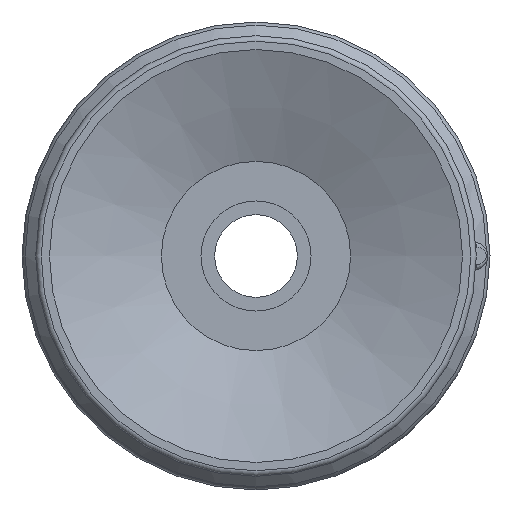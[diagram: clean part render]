
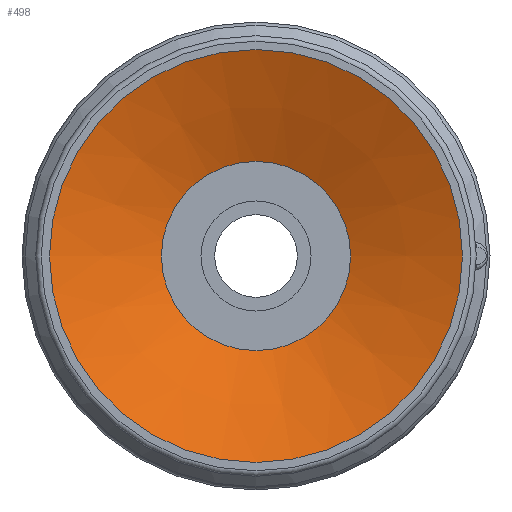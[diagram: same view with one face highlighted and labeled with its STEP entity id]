
A CAD part, front view. The second image highlights one B-rep face of the part: STEP entity #498.
In plain terms, the highlighted conical face has half-angle 67.5 degrees and reference radius 3.437 mm.
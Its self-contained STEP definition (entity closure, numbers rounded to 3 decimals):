
#498=ADVANCED_FACE('',(#714,#715),#716,.F.);
#714=FACE_BOUND('',#1982,.T.);
#715=FACE_OUTER_BOUND('',#1983,.T.);
#716=CONICAL_SURFACE('',#1984,3.437,1.178);
#1982=EDGE_LOOP('',(#2547));
#1983=EDGE_LOOP('',(#2548));
#1984=AXIS2_PLACEMENT_3D('',#2549,#2550,#2551);
#2547=ORIENTED_EDGE('',*,*,#2807,.F.);
#2548=ORIENTED_EDGE('',*,*,#2808,.T.);
#2549=CARTESIAN_POINT('',(0.0,0.0,1.683));
#2550=DIRECTION('',(0.0,0.,-1.0));
#2551=DIRECTION('',(0.0,1.0,0.));
#2807=EDGE_CURVE('',#3076,#3076,#3077,.T.);
#2808=EDGE_CURVE('',#3078,#3078,#3079,.T.);
#3076=VERTEX_POINT('',#3955);
#3077=CIRCLE('',#3956,3.437);
#3078=VERTEX_POINT('',#3957);
#3079=CIRCLE('',#3958,7.5);
#3955=CARTESIAN_POINT('',(-3.437,0.0,1.683));
#3956=AXIS2_PLACEMENT_3D('',#4191,#4192,#4193);
#3957=CARTESIAN_POINT('',(-7.5,0.0,0.));
#3958=AXIS2_PLACEMENT_3D('',#4194,#4195,#4196);
#4191=CARTESIAN_POINT('',(0.0,0.0,1.683));
#4192=DIRECTION('',(0.0,0.,-1.0));
#4193=DIRECTION('',(0.0,1.0,0.));
#4194=CARTESIAN_POINT('',(0.0,0.0,0.));
#4195=DIRECTION('',(0.0,0.,-1.0));
#4196=DIRECTION('',(0.0,1.0,0.));
